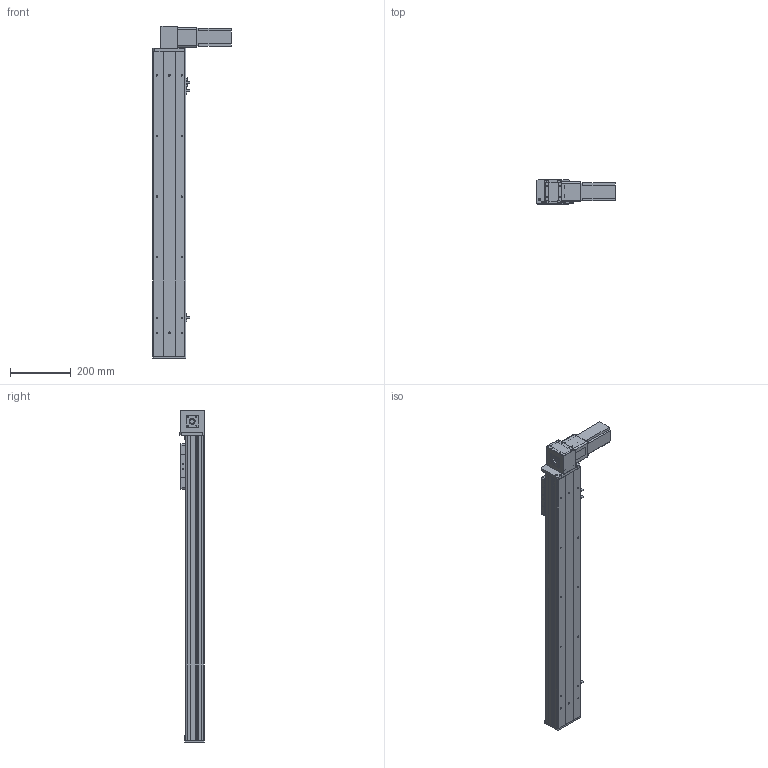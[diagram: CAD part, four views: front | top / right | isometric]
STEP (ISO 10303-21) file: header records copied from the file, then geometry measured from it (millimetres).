
FILE_DESCRIPTION (( 'STEP AP203' ), '1' );
FILE_NAME ('Y10CB-D90-S750-BD-P400W.STEP', '2020-02-17T02:29:15', ( '微软用户' ), ( '微软中国' ), 'SwSTEP 2.0', 'SolidWorks 2017', '' );
FILE_SCHEMA (( 'CONFIG_CONTROL_DESIGN' ));
Length unit declared in the file: millimetre
Products named in the file (16): Y10B--々湍喘謫眊--666; 0B-埴倛裔啣; 0B-薊粣ん眊; 10CB-詩湍-; Y10CB-D90-S750-BD-P400W; Y10CB- 掛极耜裔啣-毀---; Y10C---詩湍揤啣; 0CB-雄赽釱---; 10CB9-掛极; 0Cb-俋欶---; 10CB-耜裔; Y10B-々湍喘謫眊楊擘啣--; Y135C-陔俋离換覜結え-; san松下电机400不带刹车----; Y100-135俋离換覜ん--; 0B-源倛裔啣
Assembly tree (19 placements, depth 2):
  Y10CB-D90-S750-BD-P400W
    0CB-雄赽釱---
    0Cb-俋欶---
    Y10B-々湍喘謫眊楊擘啣--
    san松下电机400不带刹车----
    0B-源倛裔啣
    0B-埴倛裔啣
    10CB-詩湍-
    Y10CB- 掛极耜裔啣-毀---  x2
    Y10C---詩湍揤啣  x2
    10CB9-掛极
    10CB-耜裔
    Y135C-陔俋离換覜結え-
    Y100-135俋离換覜ん--  x3
    Y10B--々湍喘謫眊--666
    0B-薊粣ん眊
Bounding box: 258 x 80.5 x 1096 mm (x, y, z)
Volume: 2699869.7 mm3; surface area: 1147815.1 mm2
Topology: 19 solids, 19 shells, 888 faces, 2342 edges, 1532 vertices
Faces by surface type: plane 434, cylinder 430, cone 24
Entity records: 27069 total; most frequent: CARTESIAN_POINT 4756, DIRECTION 4389, ORIENTED_EDGE 4154, EDGE_CURVE 2077, AXIS2_PLACEMENT_3D 1575, VERTEX_POINT 1358, LINE 1239, VECTOR 1239
